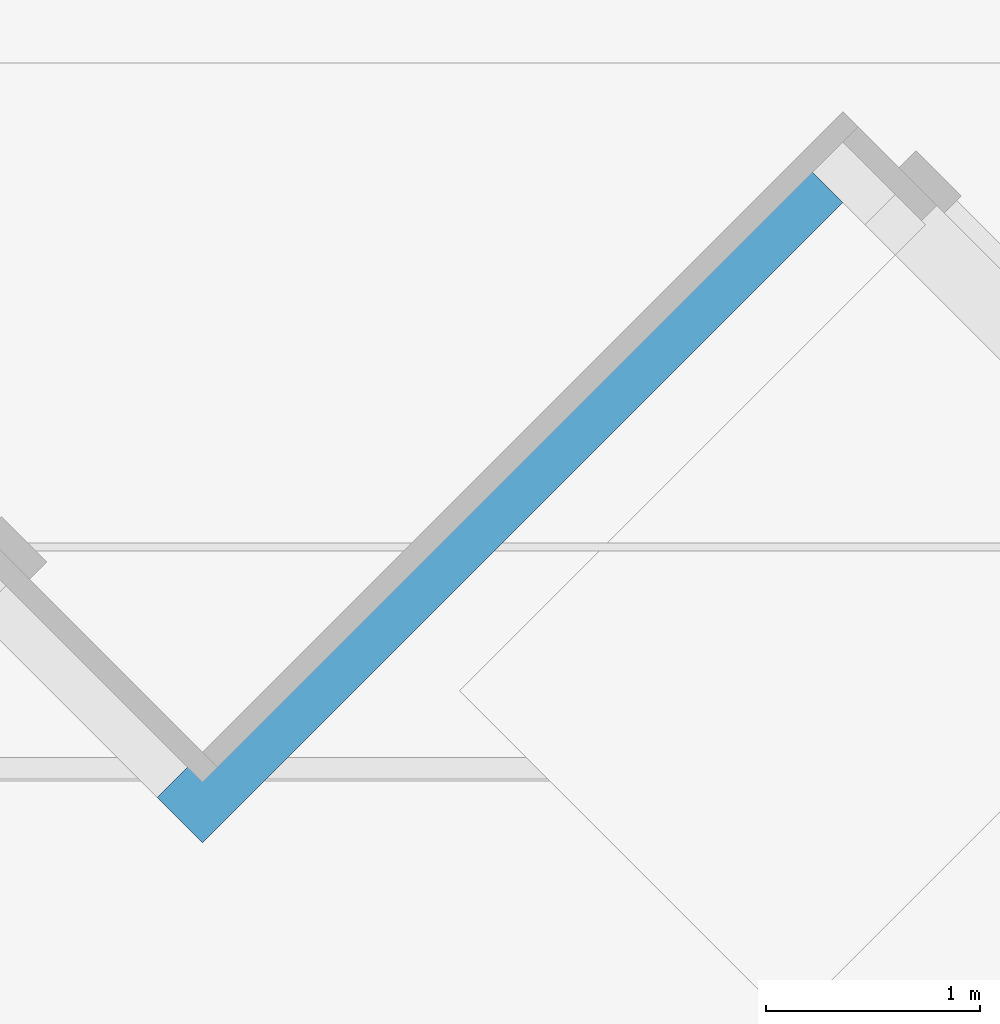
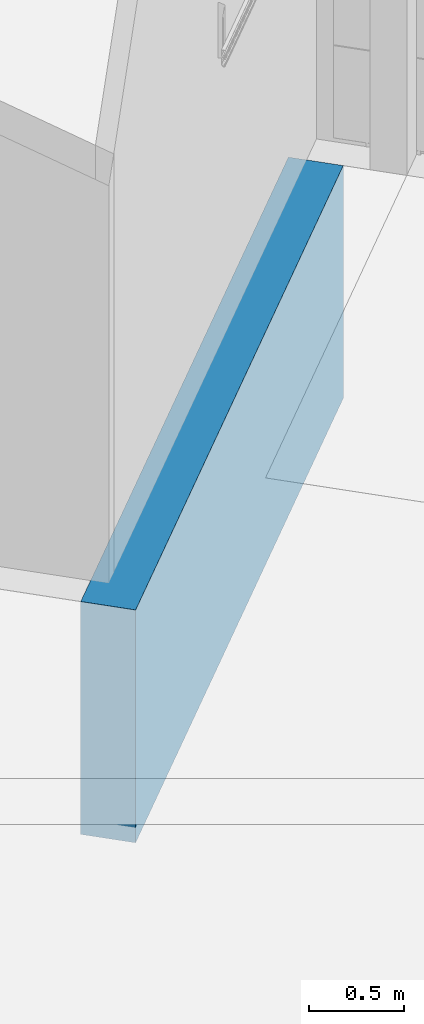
# One storey, part 43 of 64: 1 wall.
"""IFC2X3 building model written with IfcOpenShell, lengths in millimetres."""

import ifcopenshell
import ifcopenshell.guid

model = None  # the IFC model being written
_history = None  # IfcOwnerHistory: only IFC2X3 demands one
_inside = {}  # id of a spatial element -> (the spatial element, [elements in it])
_under = {}  # id of a project, library or spatial element -> (it, [spatial elements below it])
_declared = {}  # id of a project -> (the project, [libraries it declares])
_typed = {}  # id of a type object -> (the type object, [elements of that type])
_made_of = {}  # id of a material, layer set ... -> (it, [elements and type objects made of it])


def new_model(schema):
    """Start an empty IFC model of exactly this schema.

    Asked for "IFC4X3", IfcOpenShell would pick the latest addendum, in which some entities
    have other attributes; the version numbers below select the first issue.
    IFC2X3 requires an IfcOwnerHistory on every rooted entity: one is made here for all.
    """
    global model, _history
    if schema == "IFC4X3":
        model = ifcopenshell.file(schema_version=(4, 3, 0, 0))
    else:
        model = ifcopenshell.file(schema=schema)
    _inside.clear()
    _under.clear()
    _declared.clear()
    _typed.clear()
    _made_of.clear()
    _history = None
    if model.schema == "IFC2X3":
        org = make("IfcOrganization", Name="unknown")
        user = make(
            "IfcPersonAndOrganization",
            ThePerson=make("IfcPerson", FamilyName="unknown"),
            TheOrganization=org,
        )
        app = make(
            "IfcApplication",
            ApplicationDeveloper=org,
            Version="unknown",
            ApplicationFullName="unknown",
            ApplicationIdentifier="unknown",
        )
        _history = make(
            "IfcOwnerHistory",
            OwningUser=user,
            OwningApplication=app,
            ChangeAction="ADDED",
            CreationDate=0,
        )
    return model


def make(cls, **values):
    """One entity of the class cls with the attributes given. An attribute that is None is left unset."""
    return model.create_entity(
        cls, **{name: value for name, value in values.items() if value is not None}
    )


def entity(cls, *values):
    """Any entity or typed value of the class cls, its attributes in the order of the schema. None: left unset."""
    e = model.create_entity(cls)
    for i, value in enumerate(values):
        if value is not None:
            e[i] = value
    return e


def rooted(cls, **values):
    """An entity with a GlobalId (a new one), such as an element, a storey or a relation."""
    return make(cls, GlobalId=ifcopenshell.guid.new(), OwnerHistory=_history, **values)


def si_unit(unit_type, name, prefix=None):
    """IfcSIUnit, for example si_unit("LENGTHUNIT", "METRE", prefix="MILLI")."""
    return make("IfcSIUnit", UnitType=unit_type, Prefix=prefix, Name=name)


def converted_unit(unit_type, name, factor, base, dimensions=None, offset=None):
    """IfcConversionBasedUnit, such as the inch: factor (a typed value) times the base unit."""
    return make(
        "IfcConversionBasedUnit"
        if offset is None
        else "IfcConversionBasedUnitWithOffset",
        ConversionOffset=offset,
        Dimensions=None
        if dimensions is None
        else entity("IfcDimensionalExponents", *dimensions),
        UnitType=unit_type,
        Name=name,
        ConversionFactor=make(
            "IfcMeasureWithUnit", ValueComponent=factor, UnitComponent=base
        ),
    )


def derived_unit(unit_type, elements):
    """IfcDerivedUnit: a product of units, each with its exponent."""
    return make(
        "IfcDerivedUnit",
        Elements=[
            make("IfcDerivedUnitElement", Unit=unit, Exponent=power)
            for unit, power in elements
        ],
        UnitType=unit_type,
    )


def assignment(units):
    """IfcUnitAssignment: the units of a project."""
    return None if units is None else make("IfcUnitAssignment", Units=units)


def point(xyz):
    """IfcCartesianPoint."""
    return None if xyz is None else make("IfcCartesianPoint", Coordinates=xyz)


def direction(xyz):
    """IfcDirection."""
    return None if xyz is None else make("IfcDirection", DirectionRatios=xyz)


def frame(location, z_axis=None, x_axis=None):
    """IfcAxis2Placement3D, a coordinate frame: its origin and axes. An axis left out is left unset."""
    return make(
        "IfcAxis2Placement3D",
        Location=point(location),
        Axis=direction(z_axis),
        RefDirection=direction(x_axis),
    )


def frame_2d(location, x_axis=None):
    """IfcAxis2Placement2D, a coordinate frame in the plane: its origin and x axis."""
    return make(
        "IfcAxis2Placement2D", Location=point(location), RefDirection=direction(x_axis)
    )


def origin():
    """The frame at (0, 0, 0) with its axes left unset."""
    return frame((0.0, 0.0, 0.0))


def place(relative_to, where):
    """IfcLocalPlacement: puts the frame where relative to a parent placement (None: the world)."""
    return make(
        "IfcLocalPlacement", PlacementRelTo=relative_to, RelativePlacement=where
    )


def context(
    kind, dimensions, precision=None, world=None, true_north=None, identifier=None
):
    """IfcGeometricRepresentationContext, for example the 3D "Model" context."""
    return make(
        "IfcGeometricRepresentationContext",
        ContextIdentifier=identifier,
        ContextType=kind,
        CoordinateSpaceDimension=dimensions,
        Precision=precision,
        WorldCoordinateSystem=world,
        TrueNorth=true_north,
    )


def subcontext(parent, identifier, kind, view, scale=None):
    """IfcGeometricRepresentationSubContext, for example "Body" below "Model"."""
    return make(
        "IfcGeometricRepresentationSubContext",
        ContextIdentifier=identifier,
        ContextType=kind,
        ParentContext=parent,
        TargetScale=scale,
        TargetView=view,
    )


def project(units=None, contexts=None):
    """IfcProject with its units and contexts."""
    return rooted(
        "IfcProject",
        Name="project",
        RepresentationContexts=contexts,
        UnitsInContext=assignment(units),
    )


def spatial(cls, under=None, at=None, **own):
    """A site, building, storey or space (cls), placed at a placement, below another one or the project."""
    s = rooted(cls, ObjectPlacement=at, **own)
    if under is not None:
        _under.setdefault(under.id(), (under, []))[1].append(s)
    return s


def profile(cls, at=None, kind="AREA", **sizes):
    """A parametric profile (cls). Its sizes go by their IFC names, for example OverallWidth=200.0."""
    return make(cls, ProfileType=kind, Position=at, **sizes)


def rectangle(**sizes):
    """IfcRectangleProfileDef."""
    return profile("IfcRectangleProfileDef", **sizes)


def extrude(swept, where, along, depth):
    """IfcExtrudedAreaSolid: the profile swept, set in the frame where, extruded along a direction by depth."""
    return make(
        "IfcExtrudedAreaSolid",
        SweptArea=swept,
        Position=where,
        ExtrudedDirection=direction(along),
        Depth=depth,
    )


def shape(context_of_items, identifier, shape_type, items):
    """IfcShapeRepresentation: the items that make up one representation, for example the "Body"."""
    return make(
        "IfcShapeRepresentation",
        ContextOfItems=context_of_items,
        RepresentationIdentifier=identifier,
        RepresentationType=shape_type,
        Items=items,
    )


def material(Name=None, Category=None):
    """IfcMaterial."""
    return make("IfcMaterial", Name=Name, Category=Category)


def layer(
    of_material, thickness, ventilated=None, Name=None, Category=None, Priority=None
):
    """IfcMaterialLayer: one layer of a wall or slab, of a material (None: an air gap)."""
    return make(
        "IfcMaterialLayer",
        Material=of_material,
        LayerThickness=thickness,
        IsVentilated=ventilated,
        Name=Name,
        Category=Category,
        Priority=Priority,
    )


def layer_set(layers, Name=None):
    """IfcMaterialLayerSet."""
    return make("IfcMaterialLayerSet", MaterialLayers=layers, LayerSetName=Name)


def layer_usage(for_layer_set, set_direction, sense, offset, extent=None):
    """IfcMaterialLayerSetUsage: how a layer set lies in its element."""
    return make(
        "IfcMaterialLayerSetUsage",
        ForLayerSet=for_layer_set,
        LayerSetDirection=set_direction,
        DirectionSense=sense,
        OffsetFromReferenceLine=offset,
        ReferenceExtent=extent,
    )


def made_of(thing, what):
    """Note that an element or type object is made of a material, layer set ...; save() writes the relation."""
    if what is not None:
        _made_of.setdefault(what.id(), (what, []))[1].append(thing)
    return thing


def type_object(cls, material=None, **own):
    """A type object (cls), such as IfcWallType, which elements share."""
    return made_of(rooted(cls, **own), material)


def element(
    cls,
    number,
    at=None,
    inside=None,
    cuts=None,
    type_object=None,
    material=None,
    context=None,
    identifier="Body",
    shape_type=None,
    held_by="IfcProductDefinitionShape",
    body=None,
    shapes=None,
    **own,
):
    """One element of the class cls, such as IfcWall. Its Tag is "e" and its number.

    at: its placement. inside: the storey or other place that contains it. cuts: it is an
    opening in that element (IfcRelVoidsElement). A single representation is given by context,
    identifier, shape_type and body (its items); several are given by shapes. held_by: the class
    of the entity that holds the representations. save() writes the other relations.
    """
    e = rooted(cls, Tag="e%d" % number, ObjectPlacement=at, **own)
    if body is not None:
        shapes = [shape(context, identifier, shape_type, body)]
    if shapes is not None:
        e.Representation = make(held_by, Representations=shapes)
    if inside is not None:
        _inside.setdefault(inside.id(), (inside, []))[1].append(e)
    if cuts is not None:
        rooted(
            "IfcRelVoidsElement", RelatingBuildingElement=cuts, RelatedOpeningElement=e
        )
    if type_object is not None:
        _typed.setdefault(type_object.id(), (type_object, []))[1].append(e)
    return made_of(e, material)


def aggregate(whole, parts):
    """IfcRelAggregates: a whole, such as a stair, and the parts it consists of."""
    return rooted("IfcRelAggregates", RelatingObject=whole, RelatedObjects=parts)


def save(model, path):
    """Write the relations noted so far, then the file.

    IfcRelAggregates (storeys below a building ...), IfcRelContainedInSpatialStructure (elements
    in a storey), IfcRelDefinesByType, IfcRelAssociatesMaterial and IfcRelDeclares: one each for
    every whole, place, type object, material and project.
    """
    for whole, parts in _under.values():
        aggregate(whole, parts)
    for where, things in _inside.values():
        rooted(
            "IfcRelContainedInSpatialStructure",
            RelatedElements=things,
            RelatingStructure=where,
        )
    for kind, things in _typed.values():
        rooted("IfcRelDefinesByType", RelatedObjects=things, RelatingType=kind)
    for what, things in _made_of.values():
        rooted("IfcRelAssociatesMaterial", RelatedObjects=things, RelatingMaterial=what)
    for by, libraries in _declared.values():
        rooted("IfcRelDeclares", RelatingContext=by, RelatedDefinitions=libraries)
    model.write(path)


model = new_model("IFC2X3")

# Units and contexts
model_context = context("Model", 3, precision=0.01, world=origin(), true_north=direction((4.05803320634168e-15, -1.0)))
body_context = subcontext(model_context, "Body", "Model", "MODEL_VIEW")
ifc_project = project(units=[si_unit("LENGTHUNIT", "METRE", prefix="MILLI"), si_unit("AREAUNIT", "SQUARE_METRE"), si_unit("VOLUMEUNIT", "CUBIC_METRE"), converted_unit("PLANEANGLEUNIT", "DEGREE", entity("IfcRatioMeasure", 0.0174532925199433), si_unit("PLANEANGLEUNIT", "RADIAN"), dimensions=[0, 0, 0, 0, 0, 0, 0]), si_unit("MASSUNIT", "GRAM", prefix="KILO"), derived_unit("MASSDENSITYUNIT", [(si_unit("MASSUNIT", "GRAM", prefix="KILO"), 1), (si_unit("LENGTHUNIT", "METRE"), -3)]), si_unit("TIMEUNIT", "SECOND"), si_unit("FREQUENCYUNIT", "HERTZ"), si_unit("THERMODYNAMICTEMPERATUREUNIT", "DEGREE_CELSIUS"), derived_unit("THERMALTRANSMITTANCEUNIT", [(si_unit("MASSUNIT", "GRAM", prefix="KILO"), 1), (si_unit("THERMODYNAMICTEMPERATUREUNIT", "KELVIN"), -1), (si_unit("TIMEUNIT", "SECOND"), -3)]), derived_unit("VOLUMETRICFLOWRATEUNIT", [(si_unit("LENGTHUNIT", "METRE"), 3), (si_unit("TIMEUNIT", "SECOND"), -1)]), si_unit("ELECTRICCURRENTUNIT", "AMPERE"), si_unit("ELECTRICVOLTAGEUNIT", "VOLT"), si_unit("POWERUNIT", "WATT"), si_unit("FORCEUNIT", "NEWTON", prefix="KILO"), si_unit("ILLUMINANCEUNIT", "LUX"), si_unit("LUMINOUSFLUXUNIT", "LUMEN"), si_unit("LUMINOUSINTENSITYUNIT", "CANDELA"), derived_unit("USERDEFINED", [(si_unit("MASSUNIT", "GRAM", prefix="KILO"), -1), (si_unit("LENGTHUNIT", "METRE"), -2), (si_unit("TIMEUNIT", "SECOND"), 3), (si_unit("LUMINOUSFLUXUNIT", "LUMEN"), 1)]), derived_unit("LINEARVELOCITYUNIT", [(si_unit("LENGTHUNIT", "METRE"), 1), (si_unit("TIMEUNIT", "SECOND"), -1)]), si_unit("PRESSUREUNIT", "PASCAL"), derived_unit("USERDEFINED", [(si_unit("LENGTHUNIT", "METRE"), -2), (si_unit("MASSUNIT", "GRAM", prefix="KILO"), 1), (si_unit("TIMEUNIT", "SECOND"), -2)])], contexts=[model_context])

# Site, building, storey
site_placement = place(None, frame((927466.849349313, 583801.882853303, 0.0), z_axis=(0.0, 0.0, 1.0), x_axis=(-1.0, 0.0, 0.0)))
site = spatial("IfcSite", under=ifc_project, at=site_placement, Name="Surface", CompositionType="ELEMENT")
building_placement = place(site_placement, origin())
building = spatial("IfcBuilding", under=site, at=building_placement, CompositionType="ELEMENT")
storey_placement = place(building_placement, frame((0.0, 0.0, 44170.0)))
storey = spatial("IfcBuildingStorey", under=building, at=storey_placement, Name="Ground FFL", CompositionType="ELEMENT", Elevation=44170.0)

# Wall
ifc_material = material(Name="conc bund")
ifc_layer = layer(ifc_material, 300.0)
ifc_layer_set = layer_set([ifc_layer], Name="Basic Wall:300 bund wall")
ifc_layer_usage = layer_usage(ifc_layer_set, "AXIS2", "POSITIVE", -150.0)
wall_type = type_object("IfcWallType", Name="Basic Wall:300 bund wall", PredefinedType="STANDARD", material=ifc_layer_set)
wall_placement = place(storey_placement, frame((-107877.01723937, -33356.1242200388, -1500.0), z_axis=(0.0, 0.0, 1.0), x_axis=(0.70710678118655, 0.707106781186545, 0.0)))
element("IfcWallStandardCase", 1, at=wall_placement, inside=storey, type_object=wall_type, material=ifc_layer_usage, Name="Basic Wall:300 bund wall", ObjectType="Basic Wall:300 bund wall", context=body_context, shape_type="SweptSolid", body=[
    extrude(rectangle(XDim=4232.26267936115, YDim=300.000000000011, at=frame_2d((2116.13133968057, -2.54374299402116e-12), x_axis=(-1.0, 0.0))), origin(), (0.0, 0.0, 1.0), 1500.00000000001),
])

save(model, "model.ifc")
